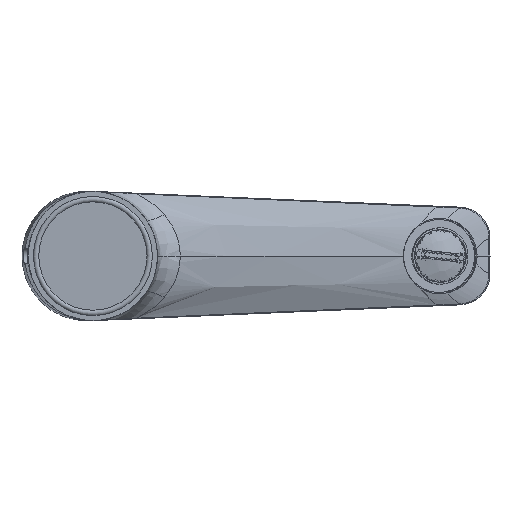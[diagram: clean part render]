
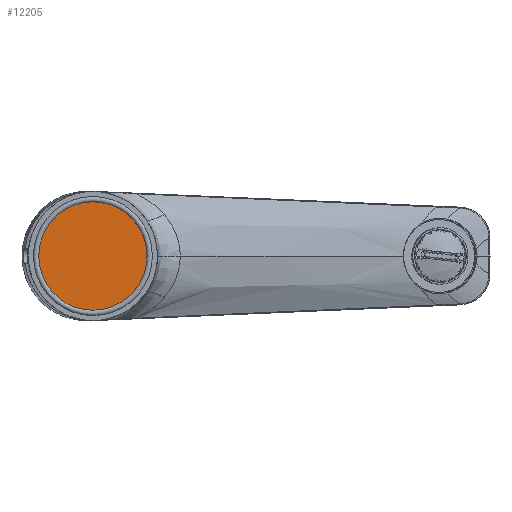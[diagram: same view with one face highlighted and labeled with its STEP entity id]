
A CAD part, front view. The second image highlights one B-rep face of the part: STEP entity #12205.
In plain terms, the highlighted planar face has unit normal (-0.052, -0.999, 0).
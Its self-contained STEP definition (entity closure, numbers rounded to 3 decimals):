
#2908=PLANE('',#12879);
#3365=FACE_OUTER_BOUND('',#4014,.T.);
#4014=EDGE_LOOP('',(#7939,#7940));
#4679=CIRCLE('',#12877,17.634);
#4680=CIRCLE('',#12878,17.634);
#4920=VERTEX_POINT('',#16498);
#4921=VERTEX_POINT('',#16500);
#6112=EDGE_CURVE('',#4921,#4920,#4679,.T.);
#6113=EDGE_CURVE('',#4920,#4921,#4680,.T.);
#7939=ORIENTED_EDGE('',*,*,#6112,.T.);
#7940=ORIENTED_EDGE('',*,*,#6113,.T.);
#12205=ADVANCED_FACE('',(#3365),#2908,.F.);
#12877=AXIS2_PLACEMENT_3D('',#16501,#13718,#13719);
#12878=AXIS2_PLACEMENT_3D('',#16502,#13720,#13721);
#12879=AXIS2_PLACEMENT_3D('',#16503,#13722,#13723);
#13718=DIRECTION('center_axis',(-0.052,-0.999,
0.));
#13719=DIRECTION('ref_axis',(0.,0.,1.));
#13720=DIRECTION('center_axis',(-0.052,-0.999,
0.));
#13721=DIRECTION('ref_axis',(0.,0.,1.));
#13722=DIRECTION('center_axis',(0.052,0.999,0.));
#13723=DIRECTION('ref_axis',(0.,0.,
1.));
#16498=CARTESIAN_POINT('',(-17.609,-125.151,-0.19));
#16500=CARTESIAN_POINT('',(0.,-126.074,-17.634));
#16501=CARTESIAN_POINT('Origin',(0.,-126.074,
0.));
#16502=CARTESIAN_POINT('Origin',(0.,-126.074,
0.));
#16503=CARTESIAN_POINT('Origin',(33.299,-127.819,25.231));
